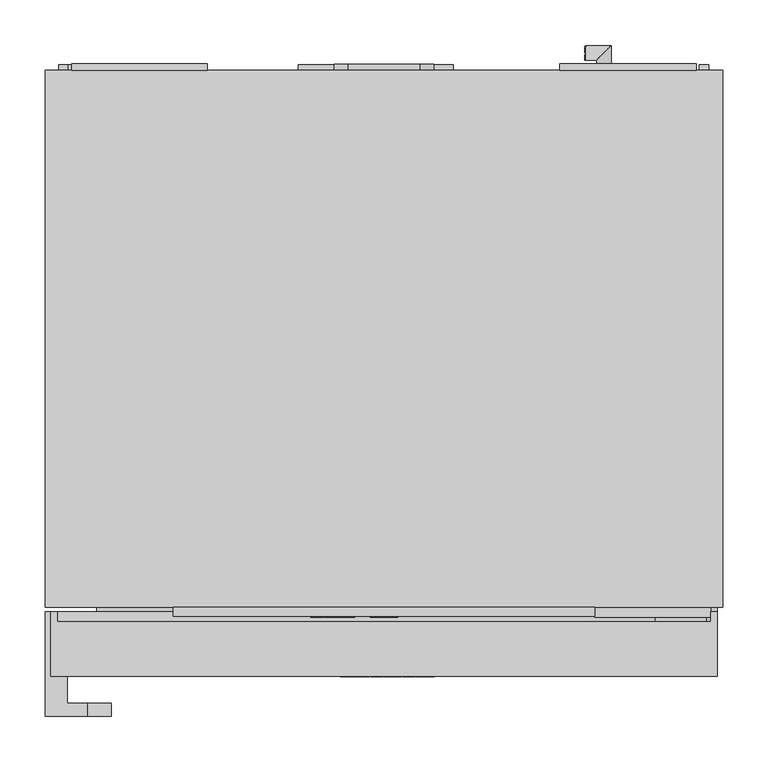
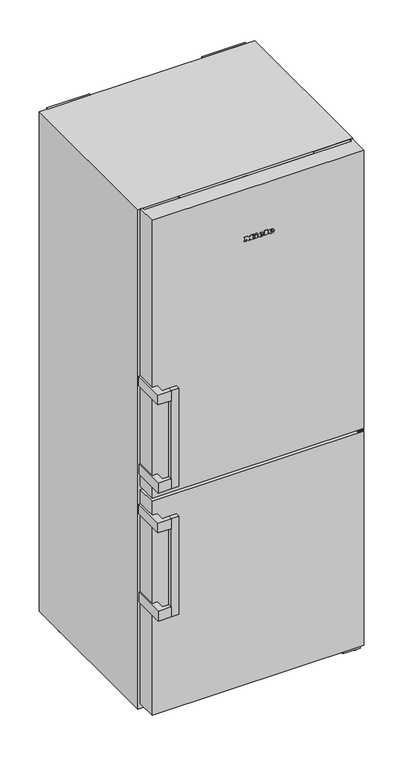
"""IFC4 building model written with IfcOpenShell, lengths in millimetres: proxy geometry, 11954040_CN_KFN4776EDC_EDTCS : 38477650_CN_11954040_KFN4776EDC_EDTCS."""

from ifc_helpers import new_model, si_unit, point, frame, frame_2d, origin, origin_with_axes, place, context, project, spatial, polyline, circle_curve, ellipse_curve, trimmed, segment, composite_curve, outline, extrude, faceted_brep, source, transform, mapped, element, save
from ifc_brep_helpers import plane_surface, cylinder_surface, revolved_surface, extruded_surface, advanced_brep


def specialty_equipment_20b82cf1(model_context):
    return source(origin(), model_context, "Body", "SolidModel", [
        extrude(outline(polyline([(15.0, -610.0), (-15.0, -610.0), (-15.0, -609.0), (15.0, -609.0), (15.0, -610.0)])), frame((0.0, 0.0, 1812.0), z_axis=(0.0, 0.0, 1.0), x_axis=(1.0, 0.0, 0.0)), (0.0, 0.0, 1.0), 28.0),
        extrude(outline(polyline([(1845.5, 105.0), (1845.5, -105.0), (1806.5, -105.0), (1806.5, 105.0), (1845.5, 105.0)]), holes=[polyline([(1840.0, -15.0), (1840.0, 15.0), (1812.0, 15.0), (1812.0, -15.0), (1840.0, -15.0)])]), frame((0.0, -609.0, 0.0), z_axis=(0.0, 1.0, 0.0), x_axis=(0.0, 0.0, 1.0)), (0.0, 0.0, 1.0), 2.0),
        faceted_brep([(232.5, -599.0, 1802.0), (232.5, -609.0, 1802.0), (-232.5, -609.0, 1802.0), (-232.5, -599.0, 1802.0), (232.5, -599.0, 1850.0), (-232.5, -599.0, 1850.0), (-232.5, -609.0, 1850.0), (232.5, -609.0, 1850.0), (-105.0, -609.0, 1845.5), (105.0, -609.0, 1845.5), (105.0, -609.0, 1806.5), (-105.0, -609.0, 1806.5), (105.0, -603.0, 1845.5), (-105.0, -603.0, 1845.5), (-105.0, -603.0, 1806.5), (105.0, -603.0, 1806.5)], [[[0, 1, 2, 3]], [[4, 5, 6, 7]], [[0, 3, 5, 4]], [[3, 2, 6, 5]], [[2, 1, 7, 6], [8, 9, 10, 11]], [[1, 0, 4, 7]], [[12, 13, 14, 15]], [[13, 12, 9, 8]], [[14, 13, 8, 11]], [[15, 14, 11, 10]], [[12, 15, 10, 9]]]),
        extrude(outline(polyline([(-372.5, -719.0), (-372.5, -604.0), (-367.5, -604.0), (-367.5, -675.0), (-349.5, -675.0), (-349.5, -705.0), (-327.0, -705.0), (-327.0, -719.0), (-372.5, -719.0)])), frame((0.0, 0.0, 881.0), z_axis=(0.0, 0.0, 1.0), x_axis=(1.0, 0.0, 0.0)), (0.0, 0.0, 1.0), 36.0),
        extrude(outline(polyline([(-373.5, -719.0), (-373.5, -604.0), (-367.5, -604.0), (-367.5, -675.0), (-349.5, -675.0), (-349.5, -705.0), (-327.0, -705.0), (-327.0, -719.0), (-373.5, -719.0)])), frame((0.0, 0.0, 1205.0), z_axis=(0.0, 0.0, 1.0), x_axis=(1.0, 0.0, 0.0)), (0.0, 0.0, 1.0), 36.0),
        extrude(outline(polyline([(-372.5, -719.0), (-372.5, -604.0), (-367.5, -604.0), (-367.5, -675.0), (-349.5, -675.0), (-349.5, -705.0), (-327.0, -705.0), (-327.0, -719.0), (-372.5, -719.0)])), frame((0.0, 0.0, 411.0), z_axis=(0.0, 0.0, 1.0), x_axis=(1.0, 0.0, 0.0)), (0.0, 0.0, 1.0), 36.0),
        extrude(outline(polyline([(-373.5, -719.0), (-373.5, -604.0), (-367.5, -604.0), (-367.5, -675.0), (-349.5, -675.0), (-349.5, -705.0), (-327.0, -705.0), (-327.0, -719.0), (-373.5, -719.0)])), frame((0.0, 0.0, 735.0), z_axis=(0.0, 0.0, 1.0), x_axis=(1.0, 0.0, 0.0)), (0.0, 0.0, 1.0), 36.0),
        extrude(outline(polyline([(-301.0, -719.0), (-327.0, -719.0), (-327.0, -705.0), (-301.0, -705.0), (-301.0, -719.0)])), frame((0.0, 0.0, 411.0), z_axis=(0.0, 0.0, 1.0), x_axis=(1.0, 0.0, 0.0)), (0.0, 0.0, 1.0), 360.0),
        extrude(outline(polyline([(-301.0, -719.0), (-327.0, -719.0), (-327.0, -705.0), (-301.0, -705.0), (-301.0, -719.0)])), frame((0.0, 0.0, 881.0), z_axis=(0.0, 0.0, 1.0), x_axis=(1.0, 0.0, 0.0)), (0.0, 0.0, 1.0), 360.0),
        faceted_brep([(-367.5, -675.0, 1854.0), (367.5, -675.0, 1854.0), (367.5, -604.0, 1854.0), (360.5, -604.0, 1854.0), (360.5, -615.0, 1854.0), (-360.5, -615.0, 1854.0), (-360.5, -604.0, 1854.0), (-367.5, -604.0, 1854.0), (358.0, -664.6805062, 1804.0), (358.0, -664.6805062, 1849.0), (358.0, -615.0, 1849.0), (358.0, -615.0, 1804.0), (-360.5, -615.0, 1799.0), (-360.5, -604.0, 1799.0), (360.5, -615.0, 1799.0), (360.5, -604.0, 1799.0), (-367.5, -675.0, 834.0), (367.5, -675.0, 834.0), (367.5, -604.0, 834.0), (-367.5, -604.0, 834.0), (265.0, -664.6805062, 1849.0), (265.0, -664.6805062, 1804.0), (265.0, -615.0, 1804.0), (265.0, -615.0, 1849.0)], [[[0, 1, 2, 3, 4, 5, 6, 7]], [[8, 9, 10, 11]], [[12, 13, 6, 5]], [[14, 15, 13, 12]], [[1, 0, 16, 17]], [[2, 18, 19, 7, 6, 13, 15, 3]], [[16, 0, 7, 19]], [[17, 16, 19, 18]], [[1, 17, 18, 2]], [[20, 9, 8, 21]], [[20, 21, 22, 23]], [[21, 8, 11, 22]], [[9, 20, 23, 10]], [[15, 14, 4, 3]], [[14, 12, 5, 4], [23, 22, 11, 10]]]),
        extrude(outline(polyline([(317.0, -604.0), (-317.0, -604.0), (-317.0, -599.0), (317.0, -599.0), (317.0, -604.0)])), frame((0.0, 0.0, 845.0), z_axis=(0.0, 0.0, 1.0), x_axis=(1.0, 0.0, 0.0)), (0.0, 0.0, 1.0), 940.0),
        extrude(outline(polyline([(317.0, -604.0), (-317.0, -604.0), (-317.0, -599.0), (317.0, -599.0), (317.0, -604.0)])), frame((0.0, 0.0, 166.0), z_axis=(0.0, 0.0, 1.0), x_axis=(1.0, 0.0, 0.0)), (0.0, 0.0, 1.0), 635.0),
        advanced_brep(
        [(367.5, -675.0, 822.0), (-367.5, -675.0, 822.0), (-367.5, -675.0, 36.0), (367.5, -675.0, 36.0), (367.5, -604.0, 822.0), (367.5, -604.0, 36.0), (297.5, -604.0, 36.0), (297.5, -604.0, 66.0), (-297.5, -604.0, 66.0), (-297.5, -604.0, 36.0), (-367.5, -604.0, 36.0), (-367.5, -604.0, 822.0), (-297.5, -629.0254347, 36.0), (297.5, -629.0254347, 36.0), (297.5, -630.6120578, 66.0), (-297.5, -630.6120578, 66.0)],
        [
            (0, 1),
            (1, 2),
            (2, 3),
            (3, 0),
            (4, 5),
            (5, 6),
            (6, 7),
            (7, 8),
            (8, 9),
            (9, 10),
            (10, 11),
            (11, 4),
            (0, 4),
            (11, 1),
            (10, 2),
            (3, 5),
            (9, 12),
            (12, 13),
            (13, 6),
            (14, 7),
            (13, 14, circle_curve(frame((297.5, -613.2041278, 51.8787046), z_axis=(-1.0, 0.0, 0.0), x_axis=(0.0, 1.0, 0.0)), 22.4153298)),
            (15, 12, circle_curve(frame((-297.5, -613.2041278, 51.8787046), z_axis=(1.0, 0.0, 0.0), x_axis=(0.0, 1.0, 0.0)), 22.4153298)),
            (8, 15),
            (15, 14),
        ],
        [
            plane_surface(frame((-367.5, -675.0, 822.0), z_axis=(0.0, -1.0, 0.0), x_axis=(-1.0, 0.0, 0.0))),
            plane_surface(frame((-367.5, -604.0, 822.0), z_axis=(0.0, 1.0, 0.0), x_axis=(1.0, 0.0, 0.0))),
            plane_surface(frame((367.5, -675.0, 822.0), z_axis=(0.0, 0.0, 1.0), x_axis=(0.0, 1.0, 0.0))),
            plane_surface(frame((-367.5, -675.0, 822.0), z_axis=(-1.0, 0.0, 0.0), x_axis=(0.0, 1.0, 0.0))),
            plane_surface(frame((367.5, -675.0, 36.0), z_axis=(1.0, 0.0, 0.0), x_axis=(0.0, 1.0, 0.0))),
            plane_surface(frame((-367.5, -675.0, 36.0), z_axis=(0.0, 0.0, -1.0), x_axis=(0.0, 1.0, 0.0))),
            plane_surface(frame((297.5, -590.788798, 51.8787046), z_axis=(-1.0, 0.0, 0.0), x_axis=(0.0, 0.0, 1.0))),
            plane_surface(frame((-297.5, -590.788798, 51.8787046), z_axis=(1.0, 0.0, 0.0), x_axis=(0.0, 0.0, -1.0))),
            revolved_surface(polyline([(297.5, -590.788798, 51.8787046), (-297.5, -590.788798, 51.8787046)]), (-297.5, -613.2041278, 51.8787046), (1.0, 0.0, 0.0)),
            plane_surface(frame((297.5, -604.0, 66.0), z_axis=(0.0, 0.0, -1.0), x_axis=(-1.0, 0.0, 0.0))),
        ],
        [
            (0, [[1, 2, 3, 4]]),
            (1, [[5, 6, 7, 8, 9, 10, 11, 12]]),
            (2, [[-1, 13, -12, 14]]),
            (3, [[-2, -14, -11, 15]]),
            (4, [[-4, 16, -5, -13]]),
            (5, [[-3, -15, -10, 17, 18, 19, -6, -16]]),
            (6, [[20, -7, -19, 21]]),
            (7, [[22, -17, -9, 23]]),
            (8, [[-21, -18, -22, 24]]),
            (9, [[-20, -24, -23, -8]]),
        ],
    ),
        extrude(outline(composite_curve([segment(trimmed(circle_curve(frame_2d((352.5815065, -643.0)), 7.0), [point((345.5815065, -643.0))], [point((359.5815065, -643.0))], False, "CARTESIAN"), True, "CONTINUOUS"), segment(trimmed(circle_curve(frame_2d((352.5815065, -643.0)), 7.0), [point((359.5815065, -643.0))], [point((345.5815065, -643.0))], False, "CARTESIAN"), True, "CONTINUOUS")], self_intersect=False)), frame((0.0, 0.0, 8.0), z_axis=(0.0, 0.0, 1.0), x_axis=(1.0, 0.0, 0.0)), (0.0, 0.0, 1.0), 11.0),
        extrude(outline(polyline([(366.9120137, -661.0), (302.4892238, -661.0), (302.4892238, -604.0), (366.9120137, -604.0), (366.9120137, -661.0)])), frame((0.0, 0.0, 32.0), z_axis=(0.0, 0.0, 1.0), x_axis=(1.0, 0.0, 0.0)), (0.0, 0.0, 1.0), 4.0),
        extrude(outline(composite_curve([segment(trimmed(circle_curve(frame_2d((354.5, -643.0)), 10.0), [point((344.5, -643.0))], [point((364.5, -643.0))], False, "CARTESIAN"), True, "CONTINUOUS"), segment(trimmed(circle_curve(frame_2d((354.5, -643.0)), 10.0), [point((364.5, -643.0))], [point((344.5, -643.0))], False, "CARTESIAN"), True, "CONTINUOUS")], self_intersect=False)), frame((0.0, 0.0, 27.0), z_axis=(0.0, 0.0, 1.0), x_axis=(1.0, 0.0, 0.0)), (0.0, 0.0, 1.0), 5.0),
        extrude(outline(composite_curve([segment(trimmed(circle_curve(frame_2d((353.5, -632.0)), 5.0), [point((358.5, -632.0))], [point((348.5, -632.0))], False, "CARTESIAN"), True, "CONTINUOUS"), segment(trimmed(circle_curve(frame_2d((353.5, -632.0)), 5.0), [point((348.5, -632.0))], [point((358.5, -632.0))], False, "CARTESIAN"), True, "CONTINUOUS")], self_intersect=False)), frame((0.0, 0.0, 822.0), z_axis=(0.0, 0.0, 1.0), x_axis=(1.0, 0.0, 0.0)), (0.0, 0.0, 1.0), 12.0),
        extrude(outline(polyline([(367.5, -604.0), (367.5, -675.0), (345.5, -675.0), (345.5, -604.0), (367.5, -604.0)])), frame((0.0, 0.0, 825.5), z_axis=(0.0, 0.0, 1.0), x_axis=(1.0, 0.0, 0.0)), (0.0, 0.0, 1.0), 5.0),
        extrude(outline(polyline([(-599.0, 19.0), (-661.0, 19.0), (-661.0, 27.0), (-604.0, 27.0), (-604.0, 70.0), (-599.0, 70.0), (-599.0, 19.0)])), frame((301.5, 0.0, 0.0), z_axis=(1.0, 0.0, 0.0), x_axis=(0.0, 1.0, 0.0)), (0.0, 0.0, 1.0), 62.0),
        extrude(outline(polyline([(302.3514151, -668.6805062), (299.2072633, -609.0), (355.5768849, -609.0), (356.2353012, -668.6805062), (302.3514151, -668.6805062)])), frame((0.0, 0.0, 1817.6745089), z_axis=(0.0, 0.0, 1.0), x_axis=(1.0, 0.0, 0.0)), (0.0, 0.0, 1.0), 23.7898602),
        extrude(outline(polyline([(367.5, -599.0), (367.5, -604.0), (293.5, -604.0), (293.5, -599.0), (367.5, -599.0)])), frame((0.0, 0.0, 825.5), z_axis=(0.0, 0.0, 1.0), x_axis=(1.0, 0.0, 0.0)), (0.0, 0.0, 1.0), 19.0),
        extrude(outline(polyline([(360.5, -610.0), (232.5, -610.0), (232.5, -599.0), (360.5, -599.0), (360.5, -610.0)])), frame((0.0, 0.0, 1801.0), z_axis=(0.0, 0.0, 1.0), x_axis=(1.0, 0.0, 0.0)), (0.0, 0.0, 1.0), 48.0),
        extrude(outline(polyline([(-41.6964698, 0.0), (-56.711628, 0.0), (-60.2126657, 5.0), (-39.3649315, 5.0), (-41.6964698, 0.0)])), frame((-263.5, 0.0, 0.0), z_axis=(1.0, 0.0, 0.0), x_axis=(0.0, 1.0, 0.0)), (0.0, 0.0, 1.0), 15.0),
        extrude(outline(polyline([(19.9571296, 142.0), (12.5798693, 142.0), (12.5798693, 143.2557039), (18.7014257, 143.2557039), (18.7014257, 146.5519266), (13.0507583, 146.5519266), (13.0507583, 147.8076304), (18.7014257, 147.8076304), (18.7014257, 150.7899271), (12.7368323, 150.7899271), (12.7368323, 152.045631), (19.9571296, 152.045631), (19.9571296, 142.0)])), frame((221.5, 0.0, 0.0), z_axis=(1.0, 0.0, 0.0), x_axis=(0.0, 1.0, 0.0)), (0.0, 0.0, 1.0), 1.0),
        extrude(outline(polyline([(10.6963135, 142.0), (4.4177941, 142.0), (4.4177941, 143.2557039), (9.4406096, 143.2557039), (9.4406096, 152.045631), (10.6963135, 152.045631), (10.6963135, 142.0)])), frame((221.5, 0.0, 0.0), z_axis=(1.0, 0.0, 0.0), x_axis=(0.0, 1.0, 0.0)), (0.0, 0.0, 1.0), 1.0),
        extrude(outline(polyline([(-41.6964698, 0.0), (-56.711628, 0.0), (-60.2126657, 5.0), (-39.3649315, 5.0), (-41.6964698, 0.0)])), frame((248.5, 0.0, 0.0), z_axis=(1.0, 0.0, 0.0), x_axis=(0.0, 1.0, 0.0)), (0.0, 0.0, 1.0), 15.0),
        advanced_brep(
        [(250.5, -7.0, 147.0), (234.5, -7.0, 147.0), (250.5, 20.5798693, 147.0), (234.5, 4.5798693, 147.0), (222.5, 20.5798693, 147.0), (222.5, 4.5798693, 147.0)],
        [
            (0, 1, circle_curve(frame((242.5, -7.0, 147.0), z_axis=(0.0, -1.0, 0.0), x_axis=(-1.0, 0.0, 0.0)), 8.0)),
            (1, 0, circle_curve(frame((242.5, -7.0, 147.0), z_axis=(0.0, -1.0, 0.0), x_axis=(-1.0, 0.0, 0.0)), 8.0)),
            (0, 2),
            (2, 3, ellipse_curve(frame((242.5, 12.5798693, 147.0), z_axis=(0.7071067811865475, -0.7071067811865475, 0.0), x_axis=(-0.7071067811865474, -0.7071067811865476, 0.0)), 11.3137085, 8.0)),
            (3, 1),
            (3, 2, ellipse_curve(frame((242.5, 12.5798693, 147.0), z_axis=(0.7071067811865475, -0.7071067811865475, 0.0), x_axis=(-0.7071067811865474, -0.7071067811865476, 0.0)), 11.3137085, 8.0)),
            (4, 5, circle_curve(frame((222.5, 12.5798693, 147.0), z_axis=(-1.0, 0.0, 0.0), x_axis=(0.0, -1.0, 0.0)), 8.0)),
            (5, 4, circle_curve(frame((222.5, 12.5798693, 147.0), z_axis=(-1.0, 0.0, 0.0), x_axis=(0.0, -1.0, 0.0)), 8.0)),
            (2, 4),
            (5, 3),
        ],
        [
            plane_surface(frame((245.9201307, -7.0, 0.0), z_axis=(0.0, -1.0, 0.0), x_axis=(0.0, 0.0, 1.0))),
            cylinder_surface(frame((242.5, -7.0, 147.0), z_axis=(0.0, -1.0, 0.0), x_axis=(-1.0, 0.0, 0.0)), 8.0),
            plane_surface(frame((222.5, 16.0, 0.0), z_axis=(-1.0, 0.0, 0.0), x_axis=(0.0, 0.0, 1.0))),
            cylinder_surface(frame((245.9201307, 12.5798693, 147.0), z_axis=(1.0, 0.0, 0.0), x_axis=(0.0, -1.0, 0.0)), 8.0),
        ],
        [
            (0, [[1, 2]]),
            (1, [[-1, 3, 4, 5]]),
            (1, [[-2, -5, 6, -3]]),
            (2, [[7, 8]]),
            (3, [[-4, 9, -8, 10]]),
            (3, [[-6, -10, -7, -9]]),
        ],
    ),
        extrude(outline(polyline([(-125.5, 15.0), (-77.0, 15.0), (-89.5864945, 0.0), (-112.9135055, 0.0), (-125.5, 15.0)])), frame((-363.5, 0.0, 0.0), z_axis=(1.0, 0.0, 0.0), x_axis=(0.0, 1.0, 0.0)), (0.0, 0.0, 1.0), 16.6051044),
        extrude(outline(polyline([(-125.5, 15.0), (-77.0, 15.0), (-89.5864945, 0.0), (-112.9135055, 0.0), (-125.5, 15.0)])), frame((346.8948956, 0.0, 0.0), z_axis=(1.0, 0.0, 0.0), x_axis=(0.0, 1.0, 0.0)), (0.0, 0.0, 1.0), 16.6051044),
        extrude(outline(polyline([(357.8810028, -7.0), (347.8810028, -7.0), (347.8810028, -0.5), (357.8810028, -0.5), (357.8810028, -7.0)])), frame((0.0, 0.0, 237.8679319), z_axis=(0.0, 0.0, 1.0), x_axis=(1.0, 0.0, 0.0)), (0.0, 0.0, 1.0), 20.0),
        extrude(outline(polyline([(-348.8280905, -7.0), (-358.8280905, -7.0), (-358.8280905, -0.5), (-348.8280905, -0.5), (-348.8280905, -7.0)])), frame((0.0, 0.0, 238.6137901), z_axis=(0.0, 0.0, 1.0), x_axis=(1.0, 0.0, 0.0)), (0.0, 0.0, 1.0), 20.0),
        extrude(outline(composite_curve([segment(trimmed(circle_curve(frame_2d((829.4933773, -39.4933773)), 15.5066227), [point((845.0, -39.4933773))], [point((829.4933773, -55.0))], False, "CARTESIAN"), True, "CONTINUOUS"), segment(polyline([(829.4933773, -55.0), (812.5066227, -55.0)]), True, "CONTINUOUS"), segment(trimmed(circle_curve(frame_2d((812.5066227, -39.4933773)), 15.5066227), [point((812.5066227, -55.0))], [point((797.0, -39.4933773))], False, "CARTESIAN"), True, "CONTINUOUS"), segment(polyline([(797.0, -39.4933773), (797.0, 39.4933773)]), True, "CONTINUOUS"), segment(trimmed(circle_curve(frame_2d((812.5066227, 39.4933773)), 15.5066227), [point((797.0, 39.4933773))], [point((812.5066227, 55.0))], False, "CARTESIAN"), True, "CONTINUOUS"), segment(polyline([(812.5066227, 55.0), (829.4933773, 55.0)]), True, "CONTINUOUS"), segment(trimmed(circle_curve(frame_2d((829.4933773, 39.4933773)), 15.5066227), [point((829.4933773, 55.0))], [point((845.0, 39.4933773))], False, "CARTESIAN"), True, "CONTINUOUS"), segment(polyline([(845.0, 39.4933773), (845.0, -39.4933773)]), True, "CONTINUOUS")], self_intersect=False)), frame((0.0, -7.0, 0.0), z_axis=(0.0, 1.0, 0.0), x_axis=(0.0, 0.0, 1.0)), (0.0, 0.0, 1.0), 7.0),
        extrude(outline(polyline([(76.5, -7.0), (-94.5, -7.0), (-94.5, -0.5), (76.5, -0.5), (76.5, -7.0)])), frame((0.0, 0.0, 64.0), z_axis=(0.0, 0.0, 1.0), x_axis=(1.0, 0.0, 0.0)), (0.0, 0.0, 1.0), 96.0),
        extrude(outline(polyline([(-210.5, -7.0), (-349.5, -7.0), (-349.5, -0.5), (-210.5, -0.5), (-210.5, -7.0)])), frame((0.0, 0.0, 64.0), z_axis=(0.0, 0.0, 1.0), x_axis=(1.0, 0.0, 0.0)), (0.0, 0.0, 1.0), 96.0),
        extrude(outline(polyline([(344.5372046, -7.0), (193.7052435, -7.0), (193.7052435, 0.0), (344.5372046, 0.0), (344.5372046, -7.0)])), frame((0.0, 0.0, 1826.0), z_axis=(0.0, 0.0, 1.0), x_axis=(1.0, 0.0, 0.0)), (0.0, 0.0, 1.0), 24.0),
        extrude(outline(polyline([(-194.8489664, -7.0), (-344.5372046, -7.0), (-344.5372046, 0.0), (-194.8489664, 0.0), (-194.8489664, -7.0)])), frame((0.0, 0.0, 1826.0), z_axis=(0.0, 0.0, 1.0), x_axis=(1.0, 0.0, 0.0)), (0.0, 0.0, 1.0), 24.0),
        extrude(outline(composite_curve([segment(trimmed(circle_curve(frame_2d((-322.5, -585.0)), 10.0), [point((-332.5, -585.0))], [point((-312.5, -585.0))], False, "CARTESIAN"), True, "CONTINUOUS"), segment(trimmed(circle_curve(frame_2d((-322.5, -585.0)), 10.0), [point((-312.5, -585.0))], [point((-332.5, -585.0))], False, "CARTESIAN"), True, "CONTINUOUS")], self_intersect=False)), origin_with_axes(), (0.0, 0.0, 1.0), 15.0),
        extrude(outline(composite_curve([segment(trimmed(circle_curve(frame_2d((322.5, -585.0)), 10.0), [point((312.5, -585.0))], [point((332.5, -585.0))], False, "CARTESIAN"), True, "CONTINUOUS"), segment(trimmed(circle_curve(frame_2d((322.5, -585.0)), 10.0), [point((332.5, -585.0))], [point((312.5, -585.0))], False, "CARTESIAN"), True, "CONTINUOUS")], self_intersect=False)), origin_with_axes(), (0.0, 0.0, 1.0), 15.0),
        extrude(outline(polyline([(346.8948956, -27.5417683), (346.8948956, -549.0), (-346.8948956, -549.0), (-346.8948956, -27.5417683), (346.8948956, -27.5417683)])), frame((0.0, 0.0, 5.0), z_axis=(0.0, 0.0, 1.0), x_axis=(1.0, 0.0, 0.0)), (0.0, 0.0, 1.0), 10.0),
        faceted_brep([(373.5, -7.0, 1850.0), (-373.5, -7.0, 1850.0), (-373.5, -599.0, 1850.0), (373.5, -599.0, 1850.0), (373.5, -7.0, 15.0), (373.5, -599.0, 15.0), (-373.5, -599.0, 15.0), (-373.5, -7.0, 15.0), (-313.5, -599.0, 1785.0), (313.5, -599.0, 1785.0), (313.5, -599.0, 845.0), (-313.5, -599.0, 845.0), (-313.5, -599.0, 797.0), (313.5, -599.0, 797.0), (313.5, -599.0, 165.0), (-313.5, -599.0, 165.0), (-313.5, -68.0, 1785.0), (313.5, -68.0, 1785.0), (313.5, -68.0, 845.0), (-313.5, -68.0, 845.0), (-313.5, -68.0, 797.0), (313.5, -68.0, 797.0), (313.5, -68.0, 165.0), (-313.5, -68.0, 165.0)], [[[0, 1, 2, 3]], [[4, 5, 6, 7]], [[1, 0, 4, 7]], [[2, 1, 7, 6]], [[3, 2, 6, 5], [8, 9, 10, 11], [12, 13, 14, 15]], [[0, 3, 5, 4]], [[16, 17, 9, 8]], [[18, 19, 11, 10]], [[17, 16, 19, 18]], [[19, 16, 8, 11]], [[17, 18, 10, 9]], [[20, 21, 13, 12]], [[22, 23, 15, 14]], [[21, 20, 23, 22]], [[23, 20, 12, 15]], [[21, 22, 14, 13]]]),
        advanced_brep(
        [(-37.64, -610.0, 1825.408), (-37.64, -610.0, 1826.216), (-32.288, -610.0, 1826.216), (-41.6, -610.0, 1826.216), (-39.4, -610.0, 1823.512), (-32.424, -610.0, 1825.408), (-34.84, -610.0, 1825.408), (-36.744, -610.0, 1824.512), (-37.64, -610.0, 1827.24), (-37.64, -610.0, 1828.112), (-36.272, -610.0, 1828.112), (-36.272, -610.0, 1827.24), (-37.64, -609.0, 1825.408), (-36.744, -609.0, 1824.512), (-34.84, -609.0, 1825.408), (-32.424, -609.0, 1825.408), (-39.4, -609.0, 1823.512), (-41.6, -609.0, 1826.216), (-32.288, -609.0, 1826.216), (-37.64, -609.0, 1826.216), (-37.64, -609.0, 1827.24), (-36.272, -609.0, 1827.24), (-36.272, -609.0, 1828.112), (-37.64, -609.0, 1828.112)],
        [
            (0, 1),
            (1, 2),
            (2, 3, ellipse_curve(frame((-36.944, -610.0, 1826.216), z_axis=(0.0, -1.0, 0.0), x_axis=(-1.0, 0.0, 0.0)), 4.656, 3.848)),
            (3, 4, circle_curve(frame((-38.5039564, -610.0, 1826.488), z_axis=(0.0, -1.0, 0.0), x_axis=(0.0, 0.0, -1.0)), 3.1079688)),
            (4, 5, circle_curve(frame((-37.0372064, -610.0, 1828.6), z_axis=(0.0, -1.0, 0.0), x_axis=(0.0, 0.0, -1.0)), 5.6098607)),
            (5, 6),
            (6, 7, circle_curve(frame((-36.3529412, -610.0, 1826.152), z_axis=(0.0, 1.0, 0.0), x_axis=(0.0, 0.0, -1.0)), 1.6859795)),
            (7, 0, circle_curve(frame((-36.744, -610.0, 1825.408), z_axis=(0.0, 1.0, 0.0), x_axis=(0.0, 0.0, -1.0)), 0.896)),
            (8, 9),
            (9, 10, circle_curve(frame((-36.956, -610.0, 1828.112), z_axis=(0.0, 1.0, 0.0), x_axis=(0.0, 0.0, -1.0)), 0.684)),
            (10, 11),
            (11, 8),
            (12, 13, circle_curve(frame((-36.744, -609.0, 1825.408), z_axis=(0.0, -1.0, 0.0), x_axis=(0.0, 0.0, -1.0)), 0.896)),
            (13, 14, circle_curve(frame((-36.3529412, -609.0, 1826.152), z_axis=(0.0, -1.0, 0.0), x_axis=(0.0, 0.0, -1.0)), 1.6859795)),
            (14, 15),
            (15, 16, circle_curve(frame((-37.0372064, -609.0, 1828.6), z_axis=(0.0, 1.0, 0.0), x_axis=(0.0, 0.0, -1.0)), 5.6098607)),
            (16, 17, circle_curve(frame((-38.5039564, -609.0, 1826.488), z_axis=(0.0, 1.0, 0.0), x_axis=(0.0, 0.0, -1.0)), 3.1079688)),
            (17, 18, ellipse_curve(frame((-36.944, -609.0, 1826.216), z_axis=(0.0, 1.0, 0.0), x_axis=(-1.0, 0.0, 0.0)), 4.656, 3.848)),
            (18, 19),
            (19, 12),
            (20, 21),
            (21, 22),
            (22, 23, circle_curve(frame((-36.956, -609.0, 1828.112), z_axis=(0.0, -1.0, 0.0), x_axis=(0.0, 0.0, -1.0)), 0.684)),
            (23, 20),
            (0, 12),
            (19, 1),
            (18, 2),
            (5, 15),
            (14, 6),
            (17, 3),
            (13, 7),
            (16, 4),
            (8, 20),
            (23, 9),
            (22, 10),
            (21, 11),
        ],
        [
            plane_surface(frame((-37.64, -610.0, 1826.216), z_axis=(0.0, -1.0, 0.0), x_axis=(0.0, 0.0, 1.0))),
            plane_surface(frame((-37.64, -609.0, 1826.216), z_axis=(0.0, 1.0, 0.0), x_axis=(0.0, 0.0, -1.0))),
            plane_surface(frame((-37.64, -610.0, 1825.408), z_axis=(1.0, 0.0, 0.0), x_axis=(0.0, 1.0, 0.0))),
            plane_surface(frame((-37.64, -610.0, 1826.216), z_axis=(0.0, 0.0, -1.0), x_axis=(0.0, 1.0, 0.0))),
            plane_surface(frame((-32.424, -610.0, 1825.408), z_axis=(0.0, 0.0, 1.0), x_axis=(0.0, 1.0, 0.0))),
            extruded_surface(trimmed(ellipse_curve(frame((-36.944, -608.0, 1826.216), z_axis=(0.0, -1.0, 0.0), x_axis=(-1.0, 0.0, 0.0)), 4.656, 3.848), [point((-32.288, -608.0, 1826.216))], [point((-41.6, -608.0, 1826.216))], True, "CARTESIAN"), (0.0, -1.0, 0.0), 1.0),
            revolved_surface(polyline([(-36.3529412, -609.0, 1824.4660205), (-36.3529412, -610.0, 1824.4660205)]), (-36.3529412, -609.0, 1826.152), (0.0, 1.0, 0.0)),
            revolved_surface(polyline([(-36.744, -609.0, 1824.512), (-36.744, -610.0, 1824.512)]), (-36.744, -609.0, 1825.408), (0.0, 1.0, 0.0)),
            cylinder_surface(frame((-38.5039564, -609.0, 1826.488), z_axis=(0.0, -1.0, 0.0), x_axis=(0.0, 0.0, -1.0)), 3.1079688),
            cylinder_surface(frame((-37.0372064, -609.0, 1828.6), z_axis=(0.0, -1.0, 0.0), x_axis=(0.0, 0.0, -1.0)), 5.6098607),
            plane_surface(frame((-37.64, -610.0, 1827.24), z_axis=(1.0, 0.0, 0.0), x_axis=(0.0, 1.0, 0.0))),
            revolved_surface(polyline([(-36.956, -609.0, 1827.428), (-36.956, -610.0, 1827.428)]), (-36.956, -609.0, 1828.112), (0.0, 1.0, 0.0)),
            plane_surface(frame((-36.272, -610.0, 1828.112), z_axis=(-1.0, 0.0, 0.0), x_axis=(0.0, 1.0, 0.0))),
            plane_surface(frame((-36.272, -610.0, 1827.24), z_axis=(0.0, 0.0, 1.0), x_axis=(0.0, 1.0, 0.0))),
        ],
        [
            (0, [[1, 2, 3, 4, 5, 6, 7, 8], [9, 10, 11, 12]]),
            (1, [[13, 14, 15, 16, 17, 18, 19, 20], [21, 22, 23, 24]]),
            (2, [[-1, 25, -20, 26]]),
            (3, [[-2, -26, -19, 27]]),
            (4, [[-6, 28, -15, 29]]),
            (5, [[-3, -27, -18, 30]]),
            (6, [[-7, -29, -14, 31]]),
            (7, [[-8, -31, -13, -25]]),
            (8, [[-4, -30, -17, 32]]),
            (9, [[-5, -32, -16, -28]]),
            (10, [[-9, 33, -24, 34]]),
            (11, [[-10, -34, -23, 35]]),
            (12, [[-11, -35, -22, 36]]),
            (13, [[-12, -36, -21, -33]]),
        ],
    ),
        advanced_brep(
        [(-54.336, -610.0, 1825.408), (-54.336, -610.0, 1826.216), (-48.984, -610.0, 1826.216), (-58.296, -610.0, 1826.216), (-56.096, -610.0, 1823.512), (-49.12, -610.0, 1825.408), (-51.536, -610.0, 1825.408), (-53.44, -610.0, 1824.512), (-54.336, -610.0, 1827.24), (-54.336, -610.0, 1828.112), (-52.968, -610.0, 1828.112), (-52.968, -610.0, 1827.24), (-54.336, -609.0, 1825.408), (-53.44, -609.0, 1824.512), (-51.536, -609.0, 1825.408), (-49.12, -609.0, 1825.408), (-56.096, -609.0, 1823.512), (-58.296, -609.0, 1826.216), (-48.984, -609.0, 1826.216), (-54.336, -609.0, 1826.216), (-54.336, -609.0, 1827.24), (-52.968, -609.0, 1827.24), (-52.968, -609.0, 1828.112), (-54.336, -609.0, 1828.112)],
        [
            (0, 1),
            (1, 2),
            (2, 3, ellipse_curve(frame((-53.64, -610.0, 1826.216), z_axis=(0.0, -1.0, 0.0), x_axis=(-1.0, 0.0, 0.0)), 4.656, 3.848)),
            (3, 4, circle_curve(frame((-55.1999564, -610.0, 1826.488), z_axis=(0.0, -1.0, 0.0), x_axis=(0.0, 0.0, -1.0)), 3.1079688)),
            (4, 5, circle_curve(frame((-53.7332064, -610.0, 1828.6), z_axis=(0.0, -1.0, 0.0), x_axis=(0.0, 0.0, -1.0)), 5.6098607)),
            (5, 6),
            (6, 7, circle_curve(frame((-53.0489412, -610.0, 1826.152), z_axis=(0.0, 1.0, 0.0), x_axis=(0.0, 0.0, -1.0)), 1.6859795)),
            (7, 0, circle_curve(frame((-53.44, -610.0, 1825.408), z_axis=(0.0, 1.0, 0.0), x_axis=(0.0, 0.0, -1.0)), 0.896)),
            (8, 9),
            (9, 10, circle_curve(frame((-53.652, -610.0, 1828.112), z_axis=(0.0, 1.0, 0.0), x_axis=(0.0, 0.0, -1.0)), 0.684)),
            (10, 11),
            (11, 8),
            (12, 13, circle_curve(frame((-53.44, -609.0, 1825.408), z_axis=(0.0, -1.0, 0.0), x_axis=(0.0, 0.0, -1.0)), 0.896)),
            (13, 14, circle_curve(frame((-53.0489412, -609.0, 1826.152), z_axis=(0.0, -1.0, 0.0), x_axis=(0.0, 0.0, -1.0)), 1.6859795)),
            (14, 15),
            (15, 16, circle_curve(frame((-53.7332064, -609.0, 1828.6), z_axis=(0.0, 1.0, 0.0), x_axis=(0.0, 0.0, -1.0)), 5.6098607)),
            (16, 17, circle_curve(frame((-55.1999564, -609.0, 1826.488), z_axis=(0.0, 1.0, 0.0), x_axis=(0.0, 0.0, -1.0)), 3.1079688)),
            (17, 18, ellipse_curve(frame((-53.64, -609.0, 1826.216), z_axis=(0.0, 1.0, 0.0), x_axis=(-1.0, 0.0, 0.0)), 4.656, 3.848)),
            (18, 19),
            (19, 12),
            (20, 21),
            (21, 22),
            (22, 23, circle_curve(frame((-53.652, -609.0, 1828.112), z_axis=(0.0, -1.0, 0.0), x_axis=(0.0, 0.0, -1.0)), 0.684)),
            (23, 20),
            (0, 12),
            (19, 1),
            (18, 2),
            (5, 15),
            (14, 6),
            (17, 3),
            (13, 7),
            (16, 4),
            (8, 20),
            (23, 9),
            (22, 10),
            (21, 11),
        ],
        [
            plane_surface(frame((-54.336, -610.0, 1826.216), z_axis=(0.0, -1.0, 0.0), x_axis=(0.0, 0.0, 1.0))),
            plane_surface(frame((-54.336, -609.0, 1826.216), z_axis=(0.0, 1.0, 0.0), x_axis=(0.0, 0.0, -1.0))),
            plane_surface(frame((-54.336, -610.0, 1825.408), z_axis=(1.0, 0.0, 0.0), x_axis=(0.0, 1.0, 0.0))),
            plane_surface(frame((-54.336, -610.0, 1826.216), z_axis=(0.0, 0.0, -1.0), x_axis=(0.0, 1.0, 0.0))),
            plane_surface(frame((-49.12, -610.0, 1825.408), z_axis=(0.0, 0.0, 1.0), x_axis=(0.0, 1.0, 0.0))),
            extruded_surface(trimmed(ellipse_curve(frame((-53.64, -608.0, 1826.216), z_axis=(0.0, -1.0, 0.0), x_axis=(-1.0, 0.0, 0.0)), 4.656, 3.848), [point((-48.984, -608.0, 1826.216))], [point((-58.296, -608.0, 1826.216))], True, "CARTESIAN"), (0.0, -1.0, 0.0), 1.0),
            revolved_surface(polyline([(-53.0489412, -609.0, 1824.4660205), (-53.0489412, -610.0, 1824.4660205)]), (-53.0489412, -609.0, 1826.152), (0.0, 1.0, 0.0)),
            revolved_surface(polyline([(-53.44, -609.0, 1824.512), (-53.44, -610.0, 1824.512)]), (-53.44, -609.0, 1825.408), (0.0, 1.0, 0.0)),
            cylinder_surface(frame((-55.1999564, -609.0, 1826.488), z_axis=(0.0, -1.0, 0.0), x_axis=(0.0, 0.0, -1.0)), 3.1079688),
            cylinder_surface(frame((-53.7332064, -609.0, 1828.6), z_axis=(0.0, -1.0, 0.0), x_axis=(0.0, 0.0, -1.0)), 5.6098607),
            plane_surface(frame((-54.336, -610.0, 1827.24), z_axis=(1.0, 0.0, 0.0), x_axis=(0.0, 1.0, 0.0))),
            revolved_surface(polyline([(-53.652, -609.0, 1827.428), (-53.652, -610.0, 1827.428)]), (-53.652, -609.0, 1828.112), (0.0, 1.0, 0.0)),
            plane_surface(frame((-52.968, -610.0, 1828.112), z_axis=(-1.0, 0.0, 0.0), x_axis=(0.0, 1.0, 0.0))),
            plane_surface(frame((-52.968, -610.0, 1827.24), z_axis=(0.0, 0.0, 1.0), x_axis=(0.0, 1.0, 0.0))),
        ],
        [
            (0, [[1, 2, 3, 4, 5, 6, 7, 8], [9, 10, 11, 12]]),
            (1, [[13, 14, 15, 16, 17, 18, 19, 20], [21, 22, 23, 24]]),
            (2, [[-1, 25, -20, 26]]),
            (3, [[-2, -26, -19, 27]]),
            (4, [[-6, 28, -15, 29]]),
            (5, [[-3, -27, -18, 30]]),
            (6, [[-7, -29, -14, 31]]),
            (7, [[-8, -31, -13, -25]]),
            (8, [[-4, -30, -17, 32]]),
            (9, [[-5, -32, -16, -28]]),
            (10, [[-9, 33, -24, 34]]),
            (11, [[-10, -34, -23, 35]]),
            (12, [[-11, -35, -22, 36]]),
            (13, [[-12, -36, -21, -33]]),
        ],
    ),
        extrude(outline(polyline([(1831.04, -63.08), (1829.744, -62.472), (1831.008, -59.76), (1832.304, -60.36), (1831.04, -63.08)])), frame((0.0, -610.0, 0.0), z_axis=(0.0, 1.0, 0.0), x_axis=(0.0, 0.0, 1.0)), (0.0, 0.0, 1.0), 1.0),
        extrude(outline(polyline([(1829.568, -65.056), (1828.136, -65.056), (1828.136, -64.104), (1824.856, -64.104), (1824.856, -65.056), (1823.512, -65.056), (1823.512, -58.744), (1824.856, -58.744), (1824.856, -59.672), (1829.568, -59.672), (1829.568, -65.056)])), frame((0.0, -610.0, 0.0), z_axis=(0.0, 1.0, 0.0), x_axis=(0.0, 0.0, 1.0)), (0.0, 0.0, 1.0), 1.0),
        extrude(outline(polyline([(1830.208, -48.536), (1830.208, -47.576), (1824.856, -47.576), (1824.856, -48.536), (1823.512, -48.536), (1823.512, -42.048), (1824.856, -42.048), (1824.856, -43.032), (1831.512, -43.032), (1831.512, -48.536), (1830.208, -48.536)])), frame((0.0, -610.0, 0.0), z_axis=(0.0, 1.0, 0.0), x_axis=(0.0, 0.0, 1.0)), (0.0, 0.0, 1.0), 1.0),
        extrude(outline(polyline([(1830.208, -81.0), (1830.208, -80.032), (1824.856, -80.032), (1824.856, -81.0), (1823.512, -81.0), (1823.512, -77.48), (1824.856, -77.48), (1824.856, -78.44), (1828.2591247, -78.44), (1823.512, -74.864), (1828.3272223, -71.272), (1824.856, -71.272), (1824.856, -72.256), (1823.512, -72.256), (1823.512, -65.872), (1824.856, -65.872), (1824.856, -66.888), (1830.208, -66.888), (1830.208, -65.872), (1831.512, -65.872), (1831.512, -70.744), (1828.512, -73.08), (1831.512, -75.424), (1831.512, -81.0), (1830.208, -81.0)])), frame((0.0, -610.0, 0.0), z_axis=(0.0, 1.0, 0.0), x_axis=(0.0, 0.0, 1.0)), (0.0, 0.0, 1.0), 1.0),
        advanced_brep(
        [(43.894, -676.0, 1668.029), (43.894, -676.0, 1669.746), (55.267, -676.0, 1669.746), (35.479, -676.0, 1669.746), (40.154, -676.0, 1664.0), (54.978, -676.0, 1668.029), (49.844, -676.0, 1668.029), (45.798, -676.0, 1666.125), (43.894, -676.0, 1671.922), (43.894, -676.0, 1673.775), (46.801, -676.0, 1673.775), (46.801, -676.0, 1671.922), (43.894, -675.0, 1668.029), (45.798, -675.0, 1666.125), (49.844, -675.0, 1668.029), (54.978, -675.0, 1668.029), (40.154, -675.0, 1664.0), (35.479, -675.0, 1669.746), (55.267, -675.0, 1669.746), (43.894, -675.0, 1669.746), (43.894, -675.0, 1671.922), (46.801, -675.0, 1671.922), (46.801, -675.0, 1673.775), (43.894, -675.0, 1673.775)],
        [
            (0, 1),
            (1, 2),
            (2, 3, ellipse_curve(frame((45.373, -676.0, 1669.746), z_axis=(0.0, -1.0, 0.0), x_axis=(-1.0, 0.0, 0.0)), 9.894, 8.177)),
            (3, 4, circle_curve(frame((42.0580927, -676.0, 1670.324), z_axis=(0.0, -1.0, 0.0), x_axis=(0.0, 0.0, -1.0)), 6.6044337)),
            (4, 5, circle_curve(frame((45.1749364, -676.0, 1674.812), z_axis=(0.0, -1.0, 0.0), x_axis=(0.0, 0.0, -1.0)), 11.9209541)),
            (5, 6),
            (6, 7, circle_curve(frame((46.629, -676.0, 1669.61), z_axis=(0.0, 1.0, 0.0), x_axis=(0.0, 0.0, -1.0)), 3.5827065)),
            (7, 0, circle_curve(frame((45.798, -676.0, 1668.029), z_axis=(0.0, 1.0, 0.0), x_axis=(0.0, 0.0, -1.0)), 1.904)),
            (8, 9),
            (9, 10, circle_curve(frame((45.3475, -676.0, 1673.775), z_axis=(0.0, 1.0, 0.0), x_axis=(0.0, 0.0, -1.0)), 1.4535)),
            (10, 11),
            (11, 8),
            (12, 13, circle_curve(frame((45.798, -675.0, 1668.029), z_axis=(0.0, -1.0, 0.0), x_axis=(0.0, 0.0, -1.0)), 1.904)),
            (13, 14, circle_curve(frame((46.629, -675.0, 1669.61), z_axis=(0.0, -1.0, 0.0), x_axis=(0.0, 0.0, -1.0)), 3.5827065)),
            (14, 15),
            (15, 16, circle_curve(frame((45.1749364, -675.0, 1674.812), z_axis=(0.0, 1.0, 0.0), x_axis=(0.0, 0.0, -1.0)), 11.9209541)),
            (16, 17, circle_curve(frame((42.0580927, -675.0, 1670.324), z_axis=(0.0, 1.0, 0.0), x_axis=(0.0, 0.0, -1.0)), 6.6044337)),
            (17, 18, ellipse_curve(frame((45.373, -675.0, 1669.746), z_axis=(0.0, 1.0, 0.0), x_axis=(-1.0, 0.0, 0.0)), 9.894, 8.177)),
            (18, 19),
            (19, 12),
            (20, 21),
            (21, 22),
            (22, 23, circle_curve(frame((45.3475, -675.0, 1673.775), z_axis=(0.0, -1.0, 0.0), x_axis=(0.0, 0.0, -1.0)), 1.4535)),
            (23, 20),
            (0, 12),
            (19, 1),
            (18, 2),
            (5, 15),
            (14, 6),
            (17, 3),
            (13, 7),
            (16, 4),
            (8, 20),
            (23, 9),
            (22, 10),
            (21, 11),
        ],
        [
            plane_surface(frame((43.894, -676.0, 1669.746), z_axis=(0.0, -1.0, 0.0), x_axis=(0.0, 0.0, 1.0))),
            plane_surface(frame((43.894, -675.0, 1669.746), z_axis=(0.0, 1.0, 0.0), x_axis=(0.0, 0.0, -1.0))),
            plane_surface(frame((43.894, -676.0, 1668.029), z_axis=(1.0, 0.0, 0.0), x_axis=(0.0, 1.0, 0.0))),
            plane_surface(frame((43.894, -676.0, 1669.746), z_axis=(0.0, 0.0, -1.0), x_axis=(0.0, 1.0, 0.0))),
            plane_surface(frame((54.978, -676.0, 1668.029), z_axis=(0.0, 0.0, 1.0), x_axis=(0.0, 1.0, 0.0))),
            extruded_surface(trimmed(ellipse_curve(frame((45.373, -674.0, 1669.746), z_axis=(0.0, -1.0, 0.0), x_axis=(-1.0, 0.0, 0.0)), 9.894, 8.177), [point((55.267, -674.0, 1669.746))], [point((35.479, -674.0, 1669.746))], True, "CARTESIAN"), (0.0, -1.0, 0.0), 1.0),
            revolved_surface(polyline([(46.629, -675.0, 1666.0272934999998), (46.629, -676.0, 1666.0272934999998)]), (46.629, -675.0, 1669.61), (0.0, 1.0, 0.0)),
            revolved_surface(polyline([(45.798, -675.0, 1666.125), (45.798, -676.0, 1666.125)]), (45.798, -675.0, 1668.029), (0.0, 1.0, 0.0)),
            cylinder_surface(frame((42.0580927, -675.0, 1670.324), z_axis=(0.0, -1.0, 0.0), x_axis=(0.0, 0.0, -1.0)), 6.6044337),
            cylinder_surface(frame((45.1749364, -675.0, 1674.812), z_axis=(0.0, -1.0, 0.0), x_axis=(0.0, 0.0, -1.0)), 11.9209541),
            plane_surface(frame((43.894, -676.0, 1671.922), z_axis=(1.0, 0.0, 0.0), x_axis=(0.0, 1.0, 0.0))),
            revolved_surface(polyline([(45.3475, -675.0, 1672.3215), (45.3475, -676.0, 1672.3215)]), (45.3475, -675.0, 1673.775), (0.0, 1.0, 0.0)),
            plane_surface(frame((46.801, -676.0, 1673.775), z_axis=(-1.0, 0.0, 0.0), x_axis=(0.0, 1.0, 0.0))),
            plane_surface(frame((46.801, -676.0, 1671.922), z_axis=(0.0, 0.0, 1.0), x_axis=(0.0, 1.0, 0.0))),
        ],
        [
            (0, [[1, 2, 3, 4, 5, 6, 7, 8], [9, 10, 11, 12]]),
            (1, [[13, 14, 15, 16, 17, 18, 19, 20], [21, 22, 23, 24]]),
            (2, [[-1, 25, -20, 26]]),
            (3, [[-2, -26, -19, 27]]),
            (4, [[-6, 28, -15, 29]]),
            (5, [[-3, -27, -18, 30]]),
            (6, [[-7, -29, -14, 31]]),
            (7, [[-8, -31, -13, -25]]),
            (8, [[-4, -30, -17, 32]]),
            (9, [[-5, -32, -16, -28]]),
            (10, [[-9, 33, -24, 34]]),
            (11, [[-10, -34, -23, 35]]),
            (12, [[-11, -35, -22, 36]]),
            (13, [[-12, -36, -21, -33]]),
        ],
    ),
        advanced_brep(
        [(8.415, -676.0, 1668.029), (8.415, -676.0, 1669.746), (19.788, -676.0, 1669.746), (0.0, -676.0, 1669.746), (4.675, -676.0, 1664.0), (19.499, -676.0, 1668.029), (14.365, -676.0, 1668.029), (10.319, -676.0, 1666.125), (8.415, -676.0, 1671.922), (8.415, -676.0, 1673.775), (11.322, -676.0, 1673.775), (11.322, -676.0, 1671.922), (8.415, -675.0, 1668.029), (10.319, -675.0, 1666.125), (14.365, -675.0, 1668.029), (19.499, -675.0, 1668.029), (4.675, -675.0, 1664.0), (0.0, -675.0, 1669.746), (19.788, -675.0, 1669.746), (8.415, -675.0, 1669.746), (8.415, -675.0, 1671.922), (11.322, -675.0, 1671.922), (11.322, -675.0, 1673.775), (8.415, -675.0, 1673.775)],
        [
            (0, 1),
            (1, 2),
            (2, 3, ellipse_curve(frame((9.894, -676.0, 1669.746), z_axis=(0.0, -1.0, 0.0), x_axis=(-1.0, 0.0, 0.0)), 9.894, 8.177)),
            (3, 4, circle_curve(frame((6.5790927, -676.0, 1670.324), z_axis=(0.0, -1.0, 0.0), x_axis=(0.0, 0.0, -1.0)), 6.6044337)),
            (4, 5, circle_curve(frame((9.6959364, -676.0, 1674.812), z_axis=(0.0, -1.0, 0.0), x_axis=(0.0, 0.0, -1.0)), 11.9209541)),
            (5, 6),
            (6, 7, circle_curve(frame((11.15, -676.0, 1669.61), z_axis=(0.0, 1.0, 0.0), x_axis=(0.0, 0.0, -1.0)), 3.5827065)),
            (7, 0, circle_curve(frame((10.319, -676.0, 1668.029), z_axis=(0.0, 1.0, 0.0), x_axis=(0.0, 0.0, -1.0)), 1.904)),
            (8, 9),
            (9, 10, circle_curve(frame((9.8685, -676.0, 1673.775), z_axis=(0.0, 1.0, 0.0), x_axis=(0.0, 0.0, -1.0)), 1.4535)),
            (10, 11),
            (11, 8),
            (12, 13, circle_curve(frame((10.319, -675.0, 1668.029), z_axis=(0.0, -1.0, 0.0), x_axis=(0.0, 0.0, -1.0)), 1.904)),
            (13, 14, circle_curve(frame((11.15, -675.0, 1669.61), z_axis=(0.0, -1.0, 0.0), x_axis=(0.0, 0.0, -1.0)), 3.5827065)),
            (14, 15),
            (15, 16, circle_curve(frame((9.6959364, -675.0, 1674.812), z_axis=(0.0, 1.0, 0.0), x_axis=(0.0, 0.0, -1.0)), 11.9209541)),
            (16, 17, circle_curve(frame((6.5790927, -675.0, 1670.324), z_axis=(0.0, 1.0, 0.0), x_axis=(0.0, 0.0, -1.0)), 6.6044337)),
            (17, 18, ellipse_curve(frame((9.894, -675.0, 1669.746), z_axis=(0.0, 1.0, 0.0), x_axis=(-1.0, 0.0, 0.0)), 9.894, 8.177)),
            (18, 19),
            (19, 12),
            (20, 21),
            (21, 22),
            (22, 23, circle_curve(frame((9.8685, -675.0, 1673.775), z_axis=(0.0, -1.0, 0.0), x_axis=(0.0, 0.0, -1.0)), 1.4535)),
            (23, 20),
            (0, 12),
            (19, 1),
            (18, 2),
            (5, 15),
            (14, 6),
            (17, 3),
            (13, 7),
            (16, 4),
            (8, 20),
            (23, 9),
            (22, 10),
            (21, 11),
        ],
        [
            plane_surface(frame((8.415, -676.0, 1669.746), z_axis=(0.0, -1.0, 0.0), x_axis=(0.0, 0.0, 1.0))),
            plane_surface(frame((8.415, -675.0, 1669.746), z_axis=(0.0, 1.0, 0.0), x_axis=(0.0, 0.0, -1.0))),
            plane_surface(frame((8.415, -676.0, 1668.029), z_axis=(1.0, 0.0, 0.0), x_axis=(0.0, 1.0, 0.0))),
            plane_surface(frame((8.415, -676.0, 1669.746), z_axis=(0.0, 0.0, -1.0), x_axis=(0.0, 1.0, 0.0))),
            plane_surface(frame((19.499, -676.0, 1668.029), z_axis=(0.0, 0.0, 1.0), x_axis=(0.0, 1.0, 0.0))),
            extruded_surface(trimmed(ellipse_curve(frame((9.894, -674.0, 1669.746), z_axis=(0.0, -1.0, 0.0), x_axis=(-1.0, 0.0, 0.0)), 9.894, 8.177), [point((19.788, -674.0, 1669.746))], [point((0.0, -674.0, 1669.746))], True, "CARTESIAN"), (0.0, -1.0, 0.0), 1.0),
            revolved_surface(polyline([(11.15, -675.0, 1666.0272934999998), (11.15, -676.0, 1666.0272934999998)]), (11.15, -675.0, 1669.61), (0.0, 1.0, 0.0)),
            revolved_surface(polyline([(10.319, -675.0, 1666.125), (10.319, -676.0, 1666.125)]), (10.319, -675.0, 1668.029), (0.0, 1.0, 0.0)),
            cylinder_surface(frame((6.5790927, -675.0, 1670.324), z_axis=(0.0, -1.0, 0.0), x_axis=(0.0, 0.0, -1.0)), 6.6044337),
            cylinder_surface(frame((9.6959364, -675.0, 1674.812), z_axis=(0.0, -1.0, 0.0), x_axis=(0.0, 0.0, -1.0)), 11.9209541),
            plane_surface(frame((8.415, -676.0, 1671.922), z_axis=(1.0, 0.0, 0.0), x_axis=(0.0, 1.0, 0.0))),
            revolved_surface(polyline([(9.8685, -675.0, 1672.3215), (9.8685, -676.0, 1672.3215)]), (9.8685, -675.0, 1673.775), (0.0, 1.0, 0.0)),
            plane_surface(frame((11.322, -676.0, 1673.775), z_axis=(-1.0, 0.0, 0.0), x_axis=(0.0, 1.0, 0.0))),
            plane_surface(frame((11.322, -676.0, 1671.922), z_axis=(0.0, 0.0, 1.0), x_axis=(0.0, 1.0, 0.0))),
        ],
        [
            (0, [[1, 2, 3, 4, 5, 6, 7, 8], [9, 10, 11, 12]]),
            (1, [[13, 14, 15, 16, 17, 18, 19, 20], [21, 22, 23, 24]]),
            (2, [[-1, 25, -20, 26]]),
            (3, [[-2, -26, -19, 27]]),
            (4, [[-6, 28, -15, 29]]),
            (5, [[-3, -27, -18, 30]]),
            (6, [[-7, -29, -14, 31]]),
            (7, [[-8, -31, -13, -25]]),
            (8, [[-4, -30, -17, 32]]),
            (9, [[-5, -32, -16, -28]]),
            (10, [[-9, 33, -24, 34]]),
            (11, [[-10, -34, -23, 35]]),
            (12, [[-11, -35, -22, 36]]),
            (13, [[-12, -36, -21, -33]]),
        ],
    ),
        extrude(outline(polyline([(1679.997, -10.166), (1677.243, -8.874), (1679.929, -3.111), (1682.683, -4.386), (1679.997, -10.166)])), frame((0.0, -676.0, 0.0), z_axis=(0.0, 1.0, 0.0), x_axis=(0.0, 0.0, 1.0)), (0.0, 0.0, 1.0), 1.0),
        extrude(outline(polyline([(1676.869, -14.365), (1673.826, -14.365), (1673.826, -12.342), (1666.856, -12.342), (1666.856, -14.365), (1664.0, -14.365), (1664.0, -0.952), (1666.856, -0.952), (1666.856, -2.924), (1676.869, -2.924), (1676.869, -14.365)])), frame((0.0, -676.0, 0.0), z_axis=(0.0, 1.0, 0.0), x_axis=(0.0, 0.0, 1.0)), (0.0, 0.0, 1.0), 1.0),
        extrude(outline(polyline([(1678.229, 20.74), (1678.229, 22.78), (1666.856, 22.78), (1666.856, 20.74), (1664.0, 20.74), (1664.0, 34.527), (1666.856, 34.527), (1666.856, 32.436), (1681.0, 32.436), (1681.0, 20.74), (1678.229, 20.74)])), frame((0.0, -676.0, 0.0), z_axis=(0.0, 1.0, 0.0), x_axis=(0.0, 0.0, 1.0)), (0.0, 0.0, 1.0), 1.0),
        extrude(outline(polyline([(1678.229, -48.246), (1678.229, -46.189), (1666.856, -46.189), (1666.856, -48.246), (1664.0, -48.246), (1664.0, -40.766), (1666.856, -40.766), (1666.856, -42.806), (1674.0301247, -42.806), (1664.0, -35.207), (1674.4402223, -27.574), (1666.856, -27.574), (1666.856, -29.665), (1664.0, -29.665), (1664.0, -16.099), (1666.856, -16.099), (1666.856, -18.258), (1678.229, -18.258), (1678.229, -16.099), (1681.0, -16.099), (1681.0, -26.452), (1674.625, -31.416), (1681.0, -36.397), (1681.0, -48.246), (1678.229, -48.246)])), frame((0.0, -676.0, 0.0), z_axis=(0.0, 1.0, 0.0), x_axis=(0.0, 0.0, 1.0)), (0.0, 0.0, 1.0), 1.0),
    ])


if __name__ == "__main__":
    model = new_model("IFC4")
    model_context = context("Model", 3, world=origin())
    ifc_project = project(units=[si_unit("LENGTHUNIT", "METRE", prefix="MILLI")], contexts=[model_context])
    site = spatial("IfcSite", under=ifc_project)
    building = spatial("IfcBuilding", under=site)
    placement = place(None, origin())
    specialty_equipment_shape = specialty_equipment_20b82cf1(model_context)
    element("IfcBuildingElementProxy", 1, Name="11954040_CN_KFN4776EDC_EDTCS : 38477650_CN_11954040_KFN4776EDC_EDTCS", ObjectType="11954040_CN_KFN4776EDC_EDTCS : 38477650_CN_11954040_KFN4776EDC_EDTCS", at=placement, inside=building, context=model_context, shape_type="MappedRepresentation", body=[
        mapped(specialty_equipment_shape, transform((0.0, 0.0, 0.0), x_axis=(1.0, 0.0, 0.0), y_axis=(0.0, 1.0, 0.0), z_axis=(0.0, 0.0, 1.0))),
    ])
    save(model, "model.ifc")
